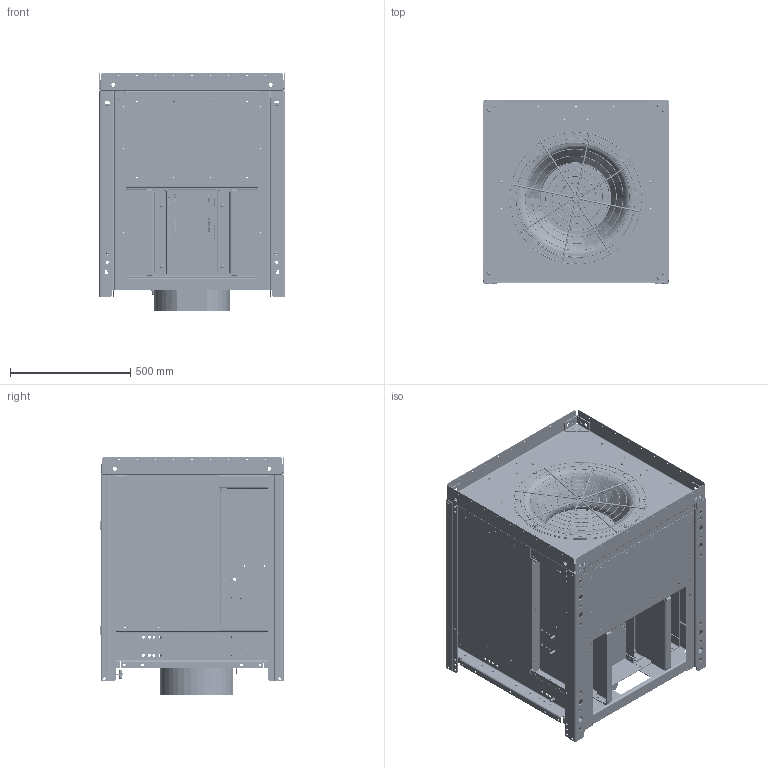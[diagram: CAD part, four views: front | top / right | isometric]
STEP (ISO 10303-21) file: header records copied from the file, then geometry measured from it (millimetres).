
FILE_DESCRIPTION((''),'2;1');
FILE_NAME('058683_ASM','2014-08-07T',('dbubemyre'),(''),'PRO/ENGINEER BY PARAMETRIC TECHNOLOGY CORPORATION, 2014090','PRO/ENGINEER BY PARAMETRIC TECHNOLOGY CORPORATION, 2014090','');
FILE_SCHEMA(('CONFIG_CONTROL_DESIGN'));
Length unit declared in the file: inch
Products named in the file (82): 0575820004; 0575830004; 0575740008; 0575880005; 057834_MIR; 0575820009_MIR; 057834; 0575990004_MIR_ASM; 0575820009; 0575740008_AF4; 0575990004_AF4_ASM; NEMA_256T_TEFC; 0575690003; 0575680006; 0576650022; 0579720001; 0575650003; 0579720001_B; 0575760003; 0575880013; 057581; NUT-INSERT_RIVET_31-18THD; WA012; HCS048; 0575660007; 0575700009; 0575790010; 0575890009_ASM; NUT-INSERT_RIVET_10-32THD; FITTING-TUBE-TO-THREAD_25; 05405801; 057632; 0544950007; 057631; 058559; BULKHEAD_TUBEFITTING_25; 0575730001; INLETGUARD_182; RING_AB; RING_AD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
Assembly tree (237 placements, depth 3):
  058683_ASM
    0575990004_MIR_ASM
      0575820004
      0575830004
      0575740008
      0575880005  x2
      057834_MIR
      0575820009_MIR
      057834
    0575990004_AF4_ASM
      0575820009
      0575830004
      0575820004
      0575740008_AF4
      0575880005  x2
      057834_MIR
      057834
    NEMA_256T_TEFC
    0575690003
    0575680006
    0576650022
    0579720001
    0575650003
    0579720001_B
    0575760003
    0575880013  x3
    057581  x4
    NUT-INSERT_RIVET_31-18THD  x8
    WA012  x8
    HCS048  x8
    0575890009_ASM
      0575660007
      0575700009
      0575790010
    NUT-INSERT_RIVET_10-32THD
    FITTING-TUBE-TO-THREAD_25
    05405801
    057632
    0544950007
    057631  x4
    058559
    BULKHEAD_TUBEFITTING_25  x2
    0575730001
    0576560004_ASM
      INLETGUARD_182
      RING_AB
      RING_AD
      ROD_182  x4
    057699-182_ASM
      057699_1_182
      057699_3_182  x2
      057699_2_182
      057699_4S  x32
      057699_4T  x2
      057699_4U  x2
      057699_4V  x2
      057699_4R  x36
      057699_1M_182
      057699_5_182  x2
      057699_2M_182
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Bounding box: 772.81 x 762.76 x 993.9 mm (x, y, z)
Volume: 123132823.8 mm3; surface area: 16609363.3 mm2
Topology: 230 solids, 230 shells, 5739 faces, 13821 edges, 8648 vertices
Faces by surface type: cylinder 2972, plane 2251, torus 264, cone 166, bspline 86
Entity records: 123626 total; most frequent: CARTESIAN_POINT 28381, DIRECTION 21013, ORIENTED_EDGE 18110, EDGE_CURVE 9055, AXIS2_PLACEMENT_3D 8187, VERTEX_POINT 5643, EDGE_LOOP 5106, VECTOR 4639
